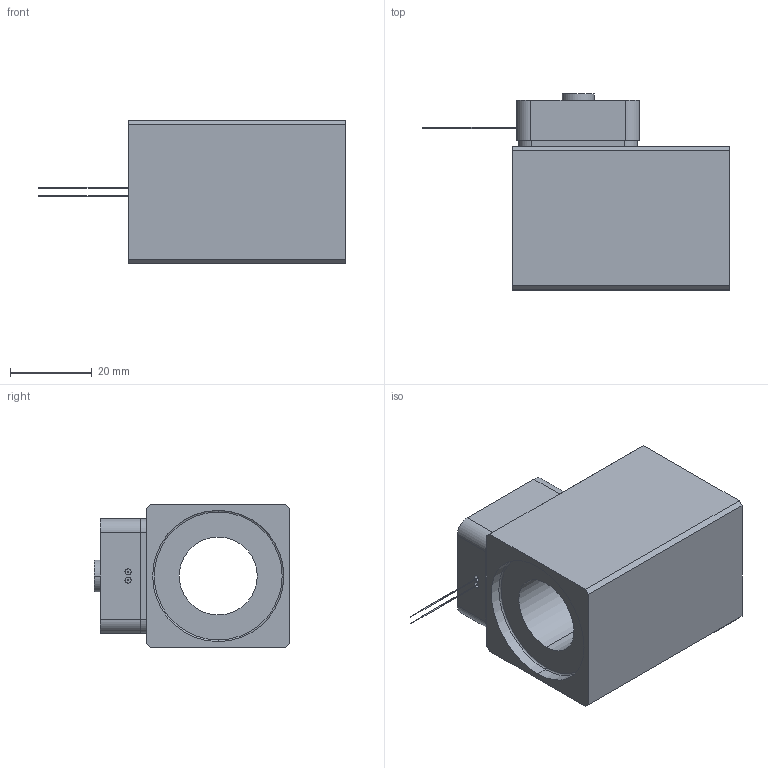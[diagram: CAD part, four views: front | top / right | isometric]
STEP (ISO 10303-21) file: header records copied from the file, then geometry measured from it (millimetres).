
FILE_DESCRIPTION (( 'STEP AP214' ), '1' );
FILE_NAME ('NLS35_19x50-M47.STEP', '2015-07-28T14:08:15', ( '' ), ( '' ), 'SwSTEP 2.0', 'SolidWorks 2014', '' );
FILE_SCHEMA (( 'AUTOMOTIVE_DESIGN' ));
Length unit declared in the file: millimetre
Products named in the file (2): NLS35_19x50-M47
Bounding box: 75 x 47.8 x 35 mm (x, y, z)
Volume: 55975.9 mm3; surface area: 15359.9 mm2
Topology: 1 solids, 4 shells, 209 faces, 530 edges, 347 vertices
Faces by surface type: plane 131, cylinder 62, bspline 8, torus 6, cone 2
Entity records: 8640 total; most frequent: CARTESIAN_POINT 1298, DIRECTION 1085, ORIENTED_EDGE 1060, EDGE_CURVE 530, AXIS2_PLACEMENT_3D 372, VERTEX_POINT 347, LINE 341, VECTOR 341
